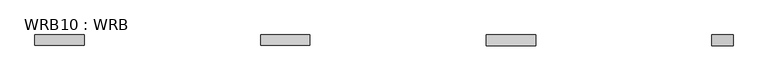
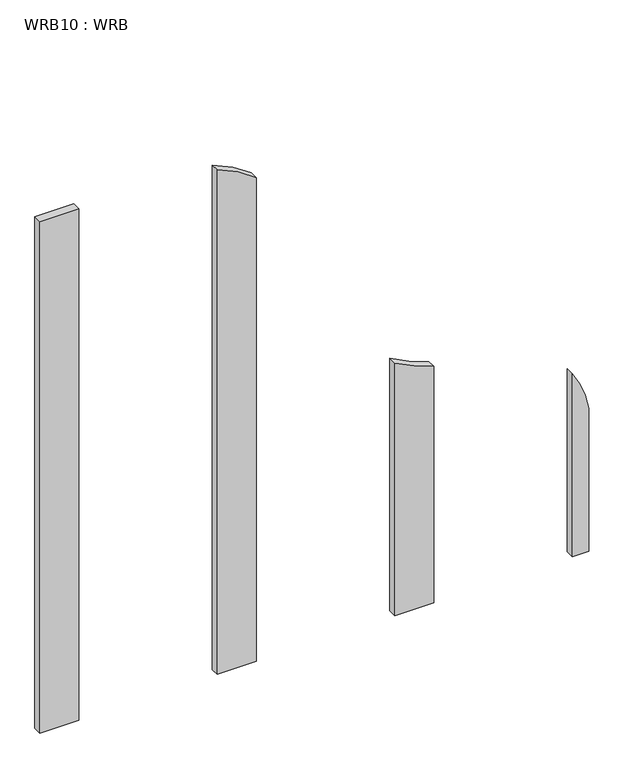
"""IFC4 building model written with IfcOpenShell, lengths in millimetres: proxy geometry, WRB10 : WRB."""

from ifc_helpers import new_model, si_unit, point, frame, frame_2d, origin, place, context, project, spatial, polyline, circle_curve, trimmed, segment, composite_curve, outline, extrude, source, transform, mapped, element, save


def wrb10_wrb_b7e937df(model_context):
    return source(origin(), model_context, "Body", "SweptSolid", [
        extrude(outline(polyline([(5850.547143, 2573.6265644), (5761.647143, 2573.6265644), (5761.647143, 2592.6765644), (5850.547143, 2592.6765644), (5850.547143, 2573.6265644)])), frame((0.0, 0.0, -19.05), z_axis=(0.0, 0.0, 1.0), x_axis=(1.0, 0.0, 0.0)), (0.0, 0.0, 1.0), 1238.25),
        extrude(outline(composite_curve([segment(trimmed(circle_curve(frame_2d((286.9857554, 6773.6368291)), 248.5485369), [point((326.9760682, 7018.947143))], [point((424.2455858, 6980.847143))], False, "CARTESIAN"), True, "CONTINUOUS"), segment(polyline([(424.2455858, 6980.847143), (-19.05, 6980.847143), (-19.05, 7018.947143), (326.9760682, 7018.947143)]), True, "CONTINUOUS")], self_intersect=False)), frame((0.0, 2573.6265644, 0.0), z_axis=(0.0, 1.0, 0.0), x_axis=(0.0, 0.0, 1.0)), (0.0, 0.0, 1.0), 19.05),
        extrude(outline(composite_curve([segment(trimmed(circle_curve(frame_2d((912.871688, 6063.18864)), 307.6659626), [point((1151.8612004, 6256.947143))], [point((1202.1173256, 6168.047143))], False, "CARTESIAN"), True, "CONTINUOUS"), segment(polyline([(1202.1173256, 6168.047143), (-19.05, 6168.047143), (-19.05, 6256.947143), (1151.8612004, 6256.947143)]), True, "CONTINUOUS")], self_intersect=False)), frame((0.0, 2573.6265644, 0.0), z_axis=(0.0, 1.0, 0.0), x_axis=(0.0, 0.0, 1.0)), (0.0, 0.0, 1.0), 19.05),
        extrude(outline(composite_curve([segment(polyline([(591.8706469, 6574.447143), (-19.05, 6574.447143), (-19.05, 6663.347143), (553.1230803, 6663.347143)]), True, "CONTINUOUS"), segment(trimmed(circle_curve(frame_2d((948.5891228, 6782.819076)), 413.1185466), [point((553.1230803, 6663.347143))], [point((591.8706469, 6574.447143))], True, "CARTESIAN"), True, "CONTINUOUS")], self_intersect=False)), frame((0.0, 2573.6265644, 0.0), z_axis=(0.0, 1.0, 0.0), x_axis=(0.0, 0.0, 1.0)), (0.0, 0.0, 1.0), 19.05),
    ])


if __name__ == "__main__":
    model = new_model("IFC4")
    model_context = context("Model", 3, world=origin())
    ifc_project = project(units=[si_unit("LENGTHUNIT", "METRE", prefix="MILLI")], contexts=[model_context])
    site = spatial("IfcSite", under=ifc_project)
    building = spatial("IfcBuilding", under=site)
    placement = place(None, origin())
    wrb10_wrb_shape = wrb10_wrb_b7e937df(model_context)
    element("IfcBuildingElementProxy", 1, Name="WRB10 : WRB", ObjectType="WRB10 : WRB", at=placement, inside=building, context=model_context, shape_type="MappedRepresentation", body=[
        mapped(wrb10_wrb_shape, transform((0.0, 0.0, 0.0), x_axis=(1.0, 0.0, 0.0), y_axis=(0.0, 1.0, 0.0), z_axis=(0.0, 0.0, 1.0))),
    ])
    save(model, "model.ifc")
